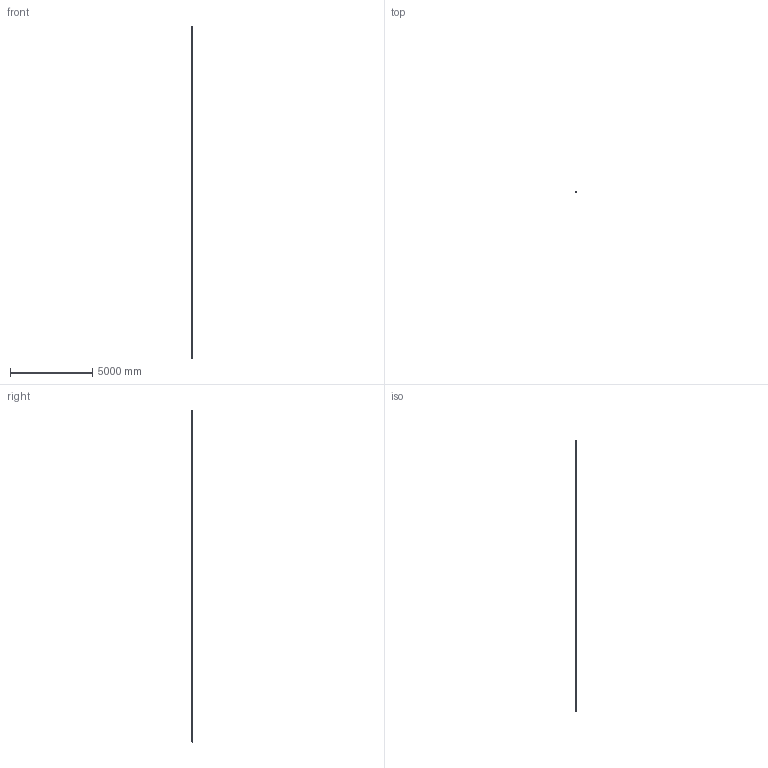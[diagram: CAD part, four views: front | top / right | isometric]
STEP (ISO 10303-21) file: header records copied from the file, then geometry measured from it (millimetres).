
FILE_DESCRIPTION(('Creo Elements/Direct Modeling STEP Export'),'2;1');
FILE_NAME('L-198.stp','2011-11-29T15:13:39',(''),(''),'Creo Elements/Direct Modeling STEP processor for AP214 (Solid Model)','Creo Elements/Direct Modeling 17.0C 05-Feb-2011 (C) Parametric Technology GmbH','');
FILE_SCHEMA(('AUTOMOTIVE_DESIGN { 1 0 10303 214 1 1 1 1 }'));
Length unit declared in the file: millimetre
Products named in the file (5): Modulo_izq_(L-KT); Modulos_intermedio_(FL-14).3; CABEZA; Modulo_der_(16-ET); L-198
Assembly tree (15 placements, depth 2):
  L-198
    Modulos_intermedio_(FL-14).3  x12
    Modulo_der_(16-ET)
    CABEZA
    Modulo_izq_(L-KT)
Bounding box: 51.5 x 87.95 x 20149.1 mm (x, y, z)
Volume: 46474903 mm3; surface area: 5916660.8 mm2
Topology: 36 solids, 160 shells, 9262 faces, 25717 edges, 16429 vertices
Faces by surface type: cylinder 4057, plane 3517, cone 714, torus 459, bspline 359, extrusion 130, sphere 26
Entity records: 128250 total; most frequent: CARTESIAN_POINT 37143, ORIENTED_EDGE 19230, DIRECTION 17181, EDGE_CURVE 9595, VERTEX_POINT 6219, AXIS2_PLACEMENT_3D 6099, VECTOR 4983, LINE 4963
